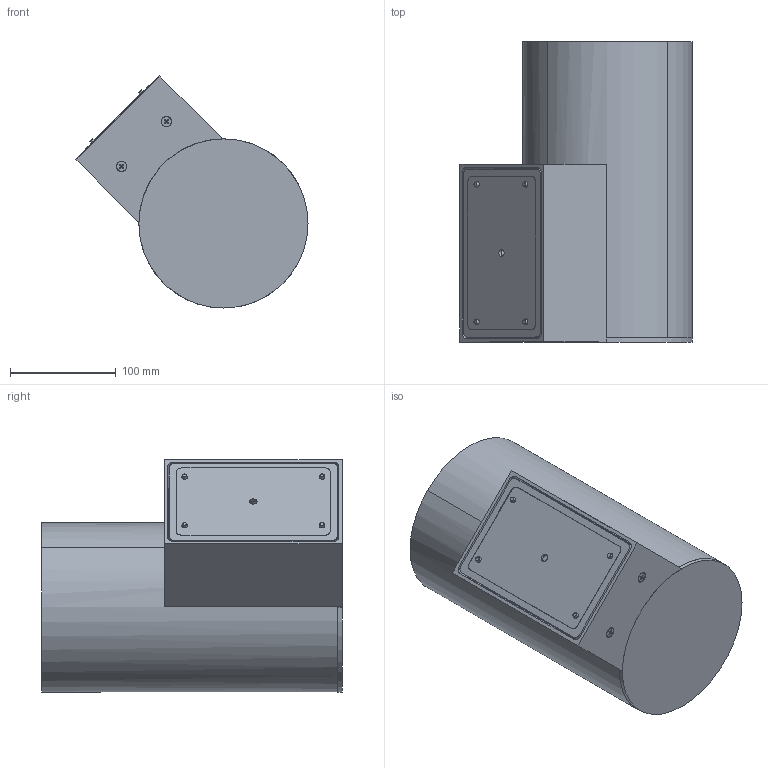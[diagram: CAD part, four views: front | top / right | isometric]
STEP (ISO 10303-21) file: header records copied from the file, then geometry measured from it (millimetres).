
FILE_DESCRIPTION((''),'2;1');
FILE_NAME('R7EH0176_ASM','2024-09-04T',('Administrator'),(''),'CREO PARAMETRIC BY PTC INC, 2015200','CREO PARAMETRIC BY PTC INC, 2015200','');
FILE_SCHEMA(('CONFIG_CONTROL_DESIGN'));
Products named in the file (39): 7EH-C_2023_7_8; 7EH_DT_HG_1; 7EH_GU_DING_ZUO_2; 7EH_GU_DING_ZUO_HG_1; ISO4762-M4X10-12_9_1; 7BC015_1_1; B3BB-RUBBER_1_1; SCREW-M12_1_1; RUBBER-1_1_1; QUEEN_ASM_1_ASM_1_ASM; 7EH_GU_DING_ZUO_HG_ZJ_ASM_1_ASM; 7EH_GU_DING_ZUO_QIANG_1; ICRFC0603_1; ISO4762-M5X20-12_9_1; 7EH_GDZ_FPM_1; 7EH_FST_A_1; 7EH_FST_B_1; M4-6; PRODUCT_88784_ANY_1_1; 7EH_GU_DING_ZUO_ZJ_ASM_1_ASM; PLANT-130_8_1; SINGLE-DRIVER-BOX_16_1; ISO7045-M3X6-4_8_1; 7EH_MZH_ZJ_ASM_1_ASM; 7EH-SSSS; 7EH-WWWW; 8EJ_MG_ZHI_CHENG_QUAN; 7EH-AAAAAX_ASM; 8EJ_MG; 8EJ_PC; 8EJ_MG_GAI_BAN; 8EJ_MG_FST; 8EJ_MG_ZJ_ASM; COB_ZJ; R16_TOU_JING; R16_FGB; ES_CLL030____; R16_FGB_ZJ_ASM; R7EH0176_ASM
Assembly tree (54 placements, depth 5):
  R7EH0176_ASM
    7EH-C_2023_7_8
    7EH_DT_HG_1
    7EH_GU_DING_ZUO_ZJ_ASM_1_ASM
      7EH_GU_DING_ZUO_2
      7EH_GU_DING_ZUO_HG_ZJ_ASM_1_ASM
        7EH_GU_DING_ZUO_HG_1
        ISO4762-M4X10-12_9_1  x6
        QUEEN_ASM_1_ASM_1_ASM
          7BC015_1_1
          B3BB-RUBBER_1_1
          SCREW-M12_1_1
          RUBBER-1_1_1
      7EH_GU_DING_ZUO_QIANG_1
      ICRFC0603_1  x4
      ISO4762-M5X20-12_9_1  x4
      7EH_GDZ_FPM_1
      7EH_FST_A_1
      7EH_FST_B_1
      M4-6  x4
      PRODUCT_88784_ANY_1_1
    7EH_MZH_ZJ_ASM_1_ASM
      PLANT-130_8_1
      SINGLE-DRIVER-BOX_16_1  x2
      ISO7045-M3X6-4_8_1  x2
    7EH-SSSS
    7EH-AAAAAX_ASM
      7EH-WWWW
      8EJ_MG_ZHI_CHENG_QUAN
    8EJ_MG_ZJ_ASM
      8EJ_MG
      8EJ_PC
      8EJ_MG_GAI_BAN
      8EJ_MG_FST
    R16_FGB_ZJ_ASM
      COB_ZJ
      R16_TOU_JING
      R16_FGB
      ES_CLL030____
Bounding box: 219.44 x 284 x 219.44 mm (x, y, z)
Volume: 1599418.2 mm3; surface area: 877182.4 mm2
Topology: 47 solids, 47 shells, 2683 faces, 6975 edges, 4484 vertices
Faces by surface type: plane 1639, cylinder 666, cone 203, torus 96, bspline 66, sphere 6, revolution 6, extrusion 1
Entity records: 66161 total; most frequent: CARTESIAN_POINT 20097, ORIENTED_EDGE 9434, DIRECTION 9423, EDGE_CURVE 4717, AXIS2_PLACEMENT_3D 3220, VERTEX_POINT 3075, VECTOR 2977, LINE 2976
